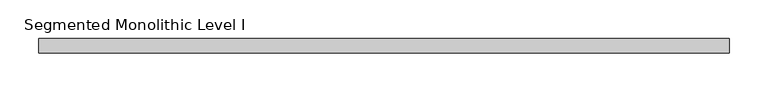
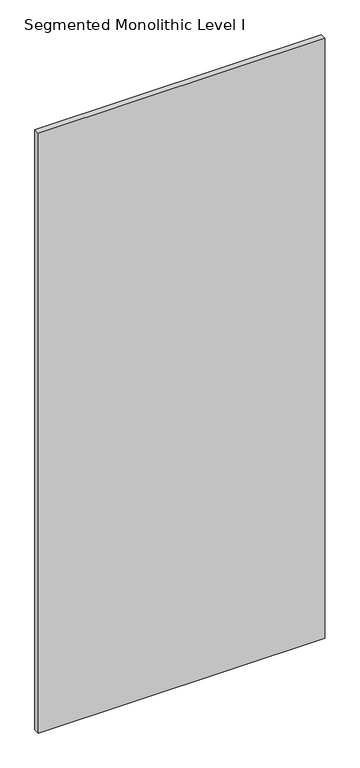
"""IFC4 building model written with IfcOpenShell, lengths in millimetres: proxy geometry, Panel-Fascia-Teknion-Altos : Segmented Monolithic Level I."""

from ifc_helpers import new_model, si_unit, frame, origin, place, context, project, spatial, polyline, outline, extrude, source, transform, mapped, element, save


def segmented_monolithic_level_i_c740ac9f(model_context):
    return source(origin(), model_context, "Body", "SweptSolid", [
        extrude(outline(polyline([(447.0356344, 9.525), (447.0356344, -9.525), (-447.0356344, -9.525), (-447.0356344, 9.525), (447.0356344, 9.525)])), frame((0.0, 0.0, 3.175), z_axis=(0.0, 0.0, 1.0), x_axis=(1.0, 0.0, 0.0)), (0.0, 0.0, 1.0), 1979.168),
    ])


if __name__ == "__main__":
    model = new_model("IFC4")
    model_context = context("Model", 3, world=origin())
    ifc_project = project(units=[si_unit("LENGTHUNIT", "METRE", prefix="MILLI")], contexts=[model_context])
    site = spatial("IfcSite", under=ifc_project)
    building = spatial("IfcBuilding", under=site)
    placement = place(None, origin())
    segmented_monolithic_level_i_shape = segmented_monolithic_level_i_c740ac9f(model_context)
    element("IfcBuildingElementProxy", 1, Name="Panel-Fascia-Teknion-Altos : Segmented Monolithic Level I", ObjectType="Panel-Fascia-Teknion-Altos : Segmented Monolithic Level I", at=placement, inside=building, context=model_context, shape_type="MappedRepresentation", body=[
        mapped(segmented_monolithic_level_i_shape, transform((0.0, 0.0, 0.0), x_axis=(1.0, 0.0, 0.0), y_axis=(0.0, 1.0, 0.0), z_axis=(0.0, 0.0, 1.0))),
    ])
    save(model, "model.ifc")
